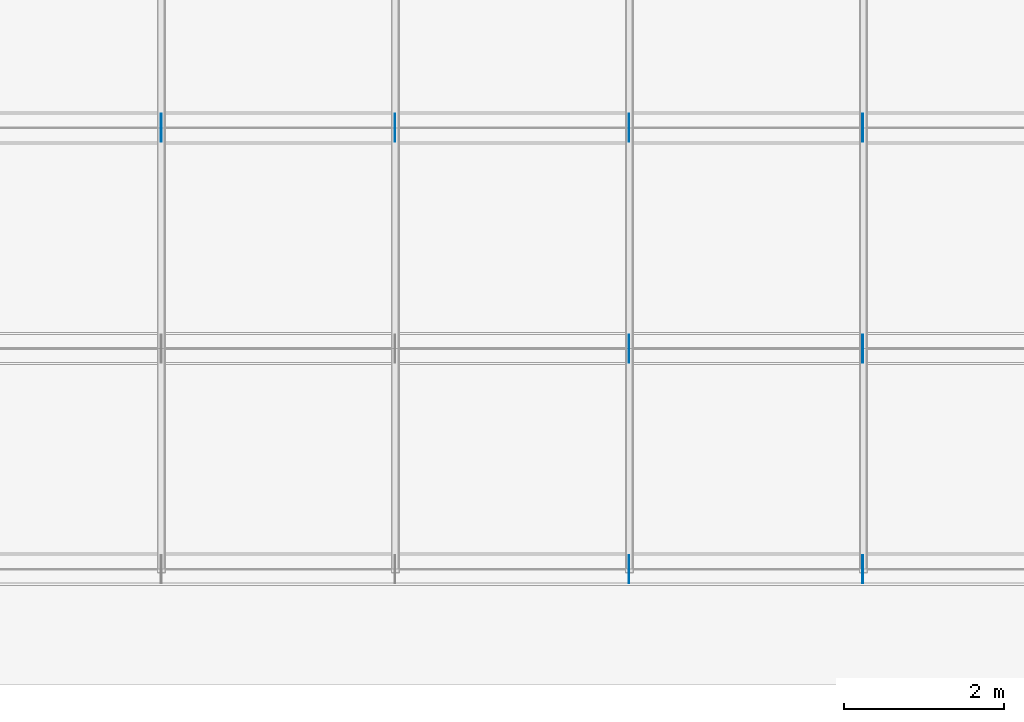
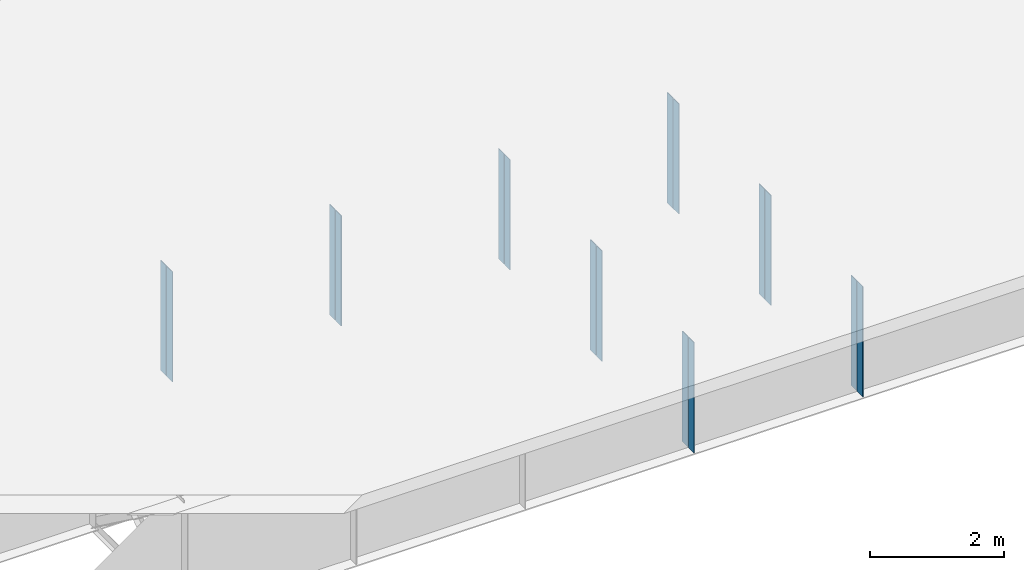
# One storey, part 12 of 17: 16 plates.
"""IFC4 building model written with IfcOpenShell, lengths in metres."""

from ifc_helpers import new_model, si_unit, frame, origin, origin_with_axes, origin_2d_with_axis, place, context, subcontext, project, spatial, rectangle, extrude, element, save


model = new_model("IFC4")

# Units and contexts
model_context = context("Model", 3, precision=1e-05, world=origin())
body_context = subcontext(model_context, "Body", "Model", "MODEL_VIEW")
ifc_project = project(units=[si_unit("LENGTHUNIT", "METRE"), si_unit("AREAUNIT", "SQUARE_METRE"), si_unit("VOLUMEUNIT", "CUBIC_METRE"), si_unit("PLANEANGLEUNIT", "RADIAN")], contexts=[model_context])

# Site, building, storey
site_placement = place(None, origin_with_axes())
site = spatial("IfcSite", under=ifc_project, at=site_placement, Name="Default Site")
building_placement = place(site_placement, origin_with_axes())
building = spatial("IfcBuilding", under=site, at=building_placement, Name="Bridge Structure")
storey_placement = place(building_placement, origin_with_axes())
storey = spatial("IfcBuildingStorey", under=building, at=storey_placement, Name="Superstructure")

# Plates
for number, where, z_axis, x_axis, name in (
    (1, (26.244, -5.409, -1.007), (0.0, 0.0, 1.0), (1.0, 0.0, 0.0), "Intermediate Stiffener 1"),
    (2, (26.244, -5.591, -1.007), (0.0, 0.0, 1.0), (1.0, 0.0, 0.0), "Intermediate Stiffener 1"),
    (3, (29.16, -5.409, -1.007), (0.0, 0.0, 1.0), (1.0, 0.0, 0.0), "Intermediate Stiffener 1"),
    (4, (29.16, -5.591, -1.007), (0.0, 0.0, 1.0), (1.0, 0.0, 0.0), "Intermediate Stiffener 1"),
    (5, (26.244, -2.6590000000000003, -1.007), (0.0, 0.0, 1.0), (1.0, 0.0, 0.0), "Intermediate Stiffener 2"),
    (6, (26.244, -2.841, -1.007), (0.0, 0.0, 1.0), (1.0, 0.0, 0.0), "Intermediate Stiffener 2"),
    (7, (29.16, -2.6590000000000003, -1.007), (0.0, 0.0, 1.0), (1.0, 0.0, 0.0), "Intermediate Stiffener 2"),
    (8, (29.16, -2.841, -1.007), (0.0, 0.0, 1.0), (1.0, 0.0, 0.0), "Intermediate Stiffener 2"),
    (9, (20.412, 0.091, -1.007), (0.0, 0.0, 1.0), (1.0, 0.0, 0.0), "Intermediate Stiffener 3"),
    (10, (20.412, -0.091, -1.007), (0.0, 0.0, 1.0), (1.0, 0.0, 0.0), "Intermediate Stiffener 3"),
    (11, (23.328, 0.091, -1.007), (0.0, 0.0, 1.0), (1.0, 0.0, 0.0), "Intermediate Stiffener 3"),
    (12, (23.328, -0.091, -1.007), (0.0, 0.0, 1.0), (1.0, 0.0, 0.0), "Intermediate Stiffener 3"),
    (13, (26.244, 0.091, -1.007), (0.0, 0.0, 1.0), (1.0, 0.0, 0.0), "Intermediate Stiffener 3"),
    (14, (26.244, -0.091, -1.007), (0.0, 0.0, 1.0), (1.0, 0.0, 0.0), "Intermediate Stiffener 3"),
    (15, (29.16, 0.091, -1.007), (0.0, 0.0, 1.0), (1.0, 0.0, 0.0), "Intermediate Stiffener 3"),
    (16, (29.16, -0.091, -1.007), (0.0, 0.0, 1.0), (1.0, 0.0, 0.0), "Intermediate Stiffener 3"),
):
    element("IfcPlate", number, at=place(storey_placement, frame(where, z_axis=z_axis, x_axis=x_axis)), inside=storey, Name=name, context=body_context, shape_type="SweptSolid", body=[
        extrude(rectangle(XDim=0.012, YDim=0.168, at=origin_2d_with_axis()), origin_with_axes(), (0.0, 0.0, 1.0), 2.014),
    ])

save(model, "model.ifc")
